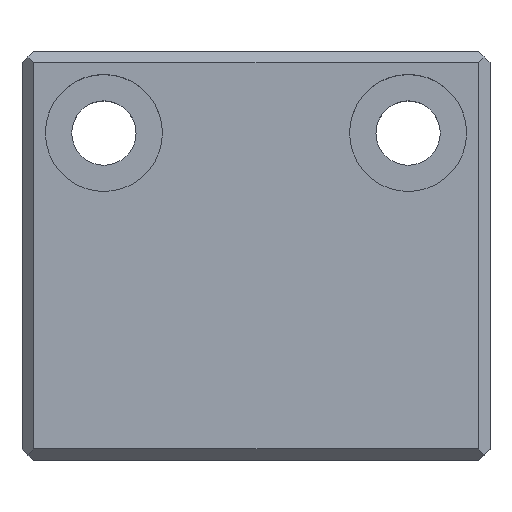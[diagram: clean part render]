
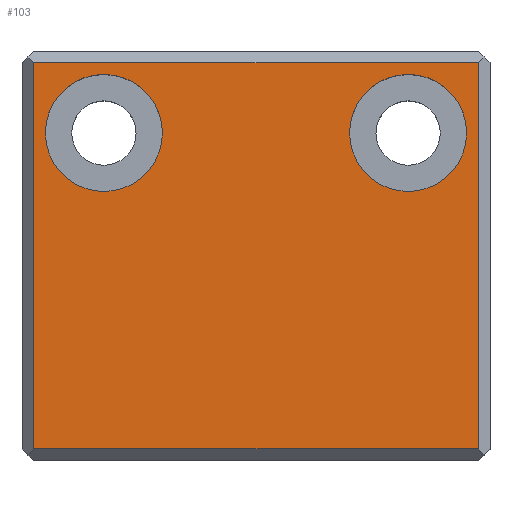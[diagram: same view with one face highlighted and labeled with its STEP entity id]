
A CAD part, top view. The second image highlights one B-rep face of the part: STEP entity #103.
In plain terms, the highlighted planar face has unit normal (0, 0, 1).
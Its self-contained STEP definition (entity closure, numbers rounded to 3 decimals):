
#103 = ADVANCED_FACE( '', ( #194, #195, #196 ), #197, .T. );
#194 = FACE_BOUND( '', #309, .T. );
#195 = FACE_BOUND( '', #310, .T. );
#196 = FACE_OUTER_BOUND( '', #311, .T. );
#197 = PLANE( '', #312 );
#309 = EDGE_LOOP( '', ( #532 ) );
#310 = EDGE_LOOP( '', ( #533 ) );
#311 = EDGE_LOOP( '', ( #534, #535, #536, #537 ) );
#312 = AXIS2_PLACEMENT_3D( '', #538, #539, #540 );
#532 = ORIENTED_EDGE( '', *, *, #670, .F. );
#533 = ORIENTED_EDGE( '', *, *, #673, .F. );
#534 = ORIENTED_EDGE( '', *, *, #695, .F. );
#535 = ORIENTED_EDGE( '', *, *, #704, .F. );
#536 = ORIENTED_EDGE( '', *, *, #699, .T. );
#537 = ORIENTED_EDGE( '', *, *, #717, .F. );
#538 = CARTESIAN_POINT( '', ( 0., 0., 20. ) );
#539 = DIRECTION( '', ( 0., 0., 1. ) );
#540 = DIRECTION( '', ( 1., 0., 0. ) );
#670 = EDGE_CURVE( '', #775, #775, #776, .T. );
#673 = EDGE_CURVE( '', #781, #781, #782, .T. );
#695 = EDGE_CURVE( '', #824, #826, #827, .T. );
#699 = EDGE_CURVE( '', #834, #831, #835, .T. );
#704 = EDGE_CURVE( '', #834, #824, #843, .T. );
#717 = EDGE_CURVE( '', #826, #831, #863, .T. );
#775 = VERTEX_POINT( '', #1048 );
#776 = CIRCLE( '', #1049, 5. );
#781 = VERTEX_POINT( '', #1054 );
#782 = CIRCLE( '', #1055, 5. );
#824 = VERTEX_POINT( '', #1111 );
#826 = VERTEX_POINT( '', #1114 );
#827 = LINE( '', #1115, #1116 );
#831 = VERTEX_POINT( '', #1122 );
#834 = VERTEX_POINT( '', #1126 );
#835 = LINE( '', #1127, #1128 );
#843 = LINE( '', #1140, #1141 );
#863 = LINE( '', #1173, #1174 );
#1048 = CARTESIAN_POINT( '', ( 18., 10.5, 20. ) );
#1049 = AXIS2_PLACEMENT_3D( '', #1252, #1253, #1254 );
#1054 = CARTESIAN_POINT( '', ( -8., 10.5, 20. ) );
#1055 = AXIS2_PLACEMENT_3D( '', #1261, #1262, #1263 );
#1111 = CARTESIAN_POINT( '', ( 19., 16.5, 20. ) );
#1114 = CARTESIAN_POINT( '', ( 19., -16.5, 20. ) );
#1115 = CARTESIAN_POINT( '', ( 19., 30., 20. ) );
#1116 = VECTOR( '', #1297, 1000. );
#1122 = CARTESIAN_POINT( '', ( -19., -16.5, 20. ) );
#1126 = CARTESIAN_POINT( '', ( -19., 16.5, 20. ) );
#1127 = CARTESIAN_POINT( '', ( -19., 30., 20. ) );
#1128 = VECTOR( '', #1301, 1000. );
#1140 = CARTESIAN_POINT( '', ( 0., 16.5, 20. ) );
#1141 = VECTOR( '', #1306, 1000. );
#1173 = CARTESIAN_POINT( '', ( 0., -16.5, 20. ) );
#1174 = VECTOR( '', #1319, 1000. );
#1252 = CARTESIAN_POINT( '', ( 13., 10.5, 20. ) );
#1253 = DIRECTION( '', ( 0., 0., 1. ) );
#1254 = DIRECTION( '', ( 1., 0., 0. ) );
#1261 = CARTESIAN_POINT( '', ( -13., 10.5, 20. ) );
#1262 = DIRECTION( '', ( 0., 0., 1. ) );
#1263 = DIRECTION( '', ( 1., 0., 0. ) );
#1297 = DIRECTION( '', ( 0., -1., 0. ) );
#1301 = DIRECTION( '', ( 0., -1., 0. ) );
#1306 = DIRECTION( '', ( 1., 0., 0. ) );
#1319 = DIRECTION( '', ( -1., 0., 0. ) );
